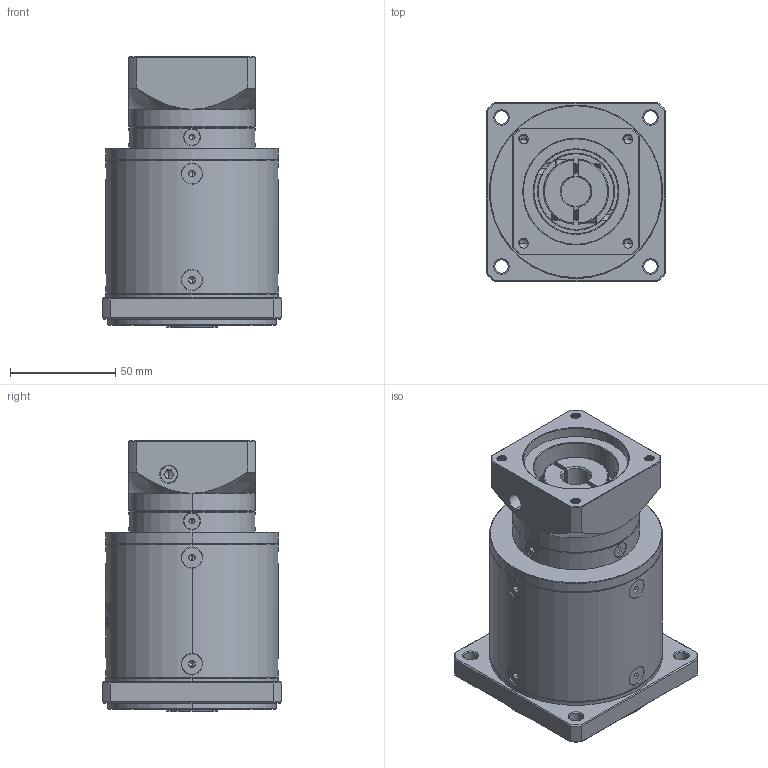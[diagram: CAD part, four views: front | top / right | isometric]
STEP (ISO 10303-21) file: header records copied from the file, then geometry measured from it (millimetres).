
FILE_DESCRIPTION (( 'STEP AP214' ), '1' );
FILE_NAME ('ZF080-K15-L3-P2-14-50-70-M5.step', '2023-08-19T07:00:38', ( '' ), ( '' ), 'SwSTEP 2.0', 'SolidWorks 2016', '' );
FILE_SCHEMA (( 'AUTOMOTIVE_DESIGN' ));
Length unit declared in the file: millimetre
Products named in the file (1): ZF080-K15-L3-P2-14-50-70-M5
Bounding box: 85 x 85 x 128.5 mm (x, y, z)
Volume: 554362.5 mm3; surface area: 71742.1 mm2
Topology: 18 solids, 18 shells, 2270 faces, 5995 edges, 3825 vertices
Faces by surface type: plane 1118, cylinder 401, bspline 390, cone 321, torus 40
Entity records: 120245 total; most frequent: CARTESIAN_POINT 43988, ORIENTED_EDGE 11918, DIRECTION 8939, EDGE_CURVE 5959, VERTEX_POINT 3825, VECTOR 3173, LINE 3173, AXIS2_PLACEMENT_3D 2883
